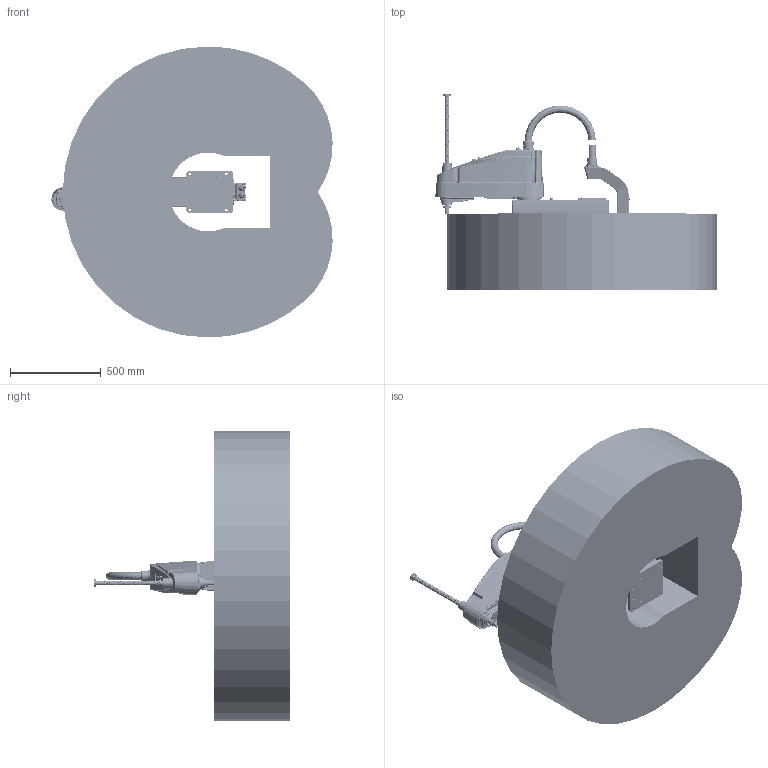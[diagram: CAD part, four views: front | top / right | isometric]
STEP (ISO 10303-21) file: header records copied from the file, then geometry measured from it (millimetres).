
FILE_DESCRIPTION (( 'STEP AP214' ), '1' );
FILE_NAME ('阹陎暱R800-20-SR-E 俋窒耀倰.STEP', '2020-12-01T09:18:51', ( '' ), ( '' ), 'SwSTEP 2.0', 'SolidWorks 2016', '' );
FILE_SCHEMA (( 'AUTOMOTIVE_DESIGN' ));
Length unit declared in the file: millimetre
Products named in the file (8): 阹陎暱R800-20-SR-E 俋窒耀倰; 阹陎暱R800-20-SR-E-1_1; 阹陎暱R800-20-SR-E-4_1; 阹陎暱R800-20-SR-E-3_1; 拓星际R800-20-SR-E 滚珠丝杆花键; 阹陎暱R800-20-SR-E-5_1; 阹陎暱R800-20-SR-E 堍雄毓峓; 阹陎暱R800-20-SR-E-2_1
Assembly tree (7 placements, depth 2):
  阹陎暱R800-20-SR-E 俋窒耀倰
    阹陎暱R800-20-SR-E-1_1
    阹陎暱R800-20-SR-E-2_1
    阹陎暱R800-20-SR-E-3_1
    阹陎暱R800-20-SR-E-5_1
    阹陎暱R800-20-SR-E 堍雄毓峓
    拓星际R800-20-SR-E 滚珠丝杆花键
    阹陎暱R800-20-SR-E-4_1
Bounding box: 1546.57 x 1080 x 1600 mm (x, y, z)
Volume: 723164139.8 mm3; surface area: 9981298 mm2
Topology: 30 solids, 141 shells, 7437 faces, 18540 edges, 11630 vertices
Faces by surface type: cylinder 3274, plane 1926, bspline 1237, cone 1000
Entity records: 305160 total; most frequent: CARTESIAN_POINT 131543, ORIENTED_EDGE 36504, DIRECTION 35234, EDGE_CURVE 18268, AXIS2_PLACEMENT_3D 14053, VERTEX_POINT 11630, EDGE_LOOP 8872, CIRCLE 7842
